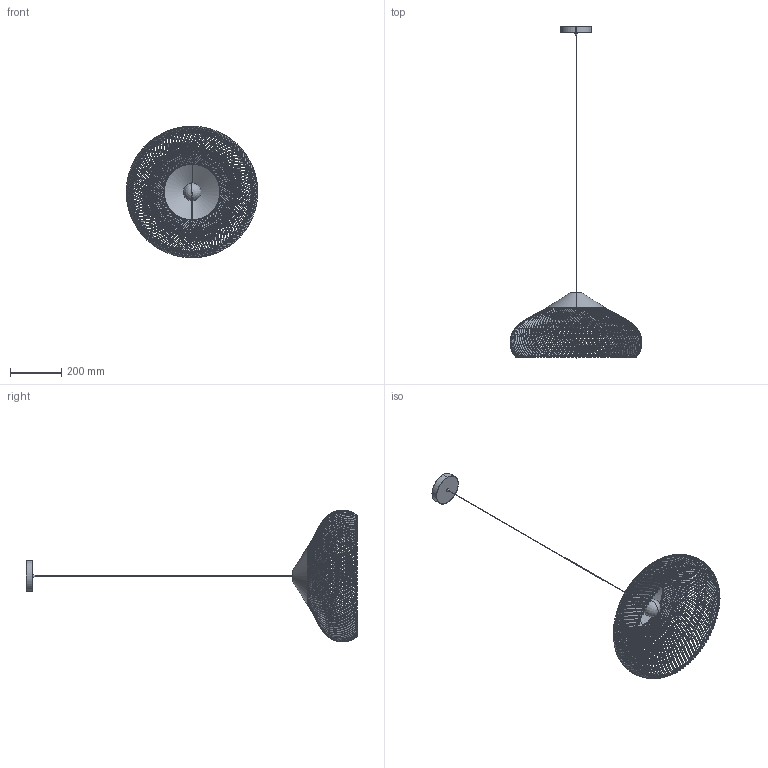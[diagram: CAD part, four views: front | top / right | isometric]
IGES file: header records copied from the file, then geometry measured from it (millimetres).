
Start section: SolidWorks IGES file using analytic representation for surfaces
Global section: file name: F:\燠隴矨\3D\2025-4\Braided Rattan Pendant Lamp-ModelB-D50cm.IGS,15; native system: HSolidWorks 2022; preprocessor: SolidWorks 2022; author: MyPC; date: 250409.113619; units: millimetre
Bounding box: 511.81 x 1289.6 x 511.81 mm (x, y, z)
Surface area: 856826.5 mm2 (no closed solid volume)
Topology: 0 solids, 0 shells, 519 faces, 8479 edges, 8477 vertices
Faces by surface type: bspline 457, revolution 62
